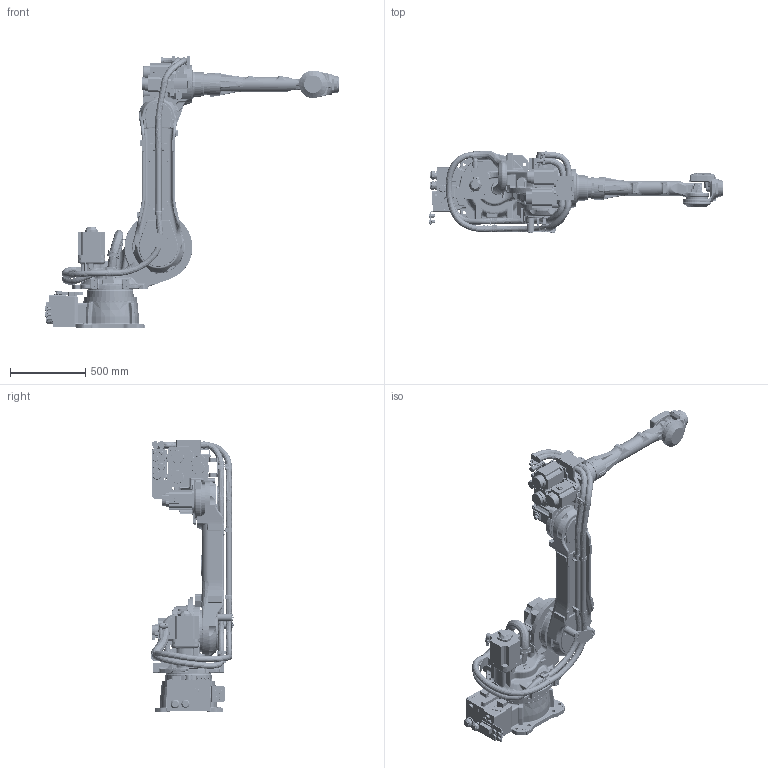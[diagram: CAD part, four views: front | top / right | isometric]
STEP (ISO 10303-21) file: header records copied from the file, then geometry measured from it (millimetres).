
FILE_DESCRIPTION(/* description */ (''),/* implementation_level */ '2;1');
FILE_NAME(/* name */ 'gp88.stp',/* time_stamp */ '2018-05-24T10:40:00+02:00',/* author */ (''),/* organization */ (''),/* preprocessor_version */ 'ST-DEVELOPER v16',/* originating_system */ 'SIEMENS PLM Software NX 10.0',/* authorisation */ '');
FILE_SCHEMA (('AUTOMOTIVE_DESIGN { 1 0 10303 214 3 1 1 1 }'));
Products named in the file (8): T_AXIS_GP88; B_AXIS_GP88; R_ARM_GP88; U_AXIS_GP88; L_AXIS_GP88; S_AXIS_GP88; BASE_GP88; gp88
Assembly tree (7 placements, depth 2):
  gp88
    BASE_GP88
    S_AXIS_GP88
    L_AXIS_GP88
    U_AXIS_GP88
    R_ARM_GP88
    B_AXIS_GP88
    T_AXIS_GP88
Bounding box: 1955.5 x 550.92 x 1811 mm (x, y, z)
Volume: 156774139.5 mm3; surface area: 7111483.2 mm2
Topology: 7 solids, 24 shells, 8753 faces, 23026 edges, 14490 vertices
Faces by surface type: cylinder 3097, plane 2839, bspline 1264, torus 773, cone 660, sphere 66, extrusion 36, revolution 18
Full cylindrical faces by diameter (mm): 5 x2, 18.8 x5, 23.6 x1, 24.432 x3, 43 x2
Entity records: 371396 total; most frequent: CARTESIAN_POINT 164335, ORIENTED_EDGE 45796, DIRECTION 40875, EDGE_CURVE 22898, AXIS2_PLACEMENT_3D 15752, VERTEX_POINT 14483, VECTOR 9353, LINE 9317
